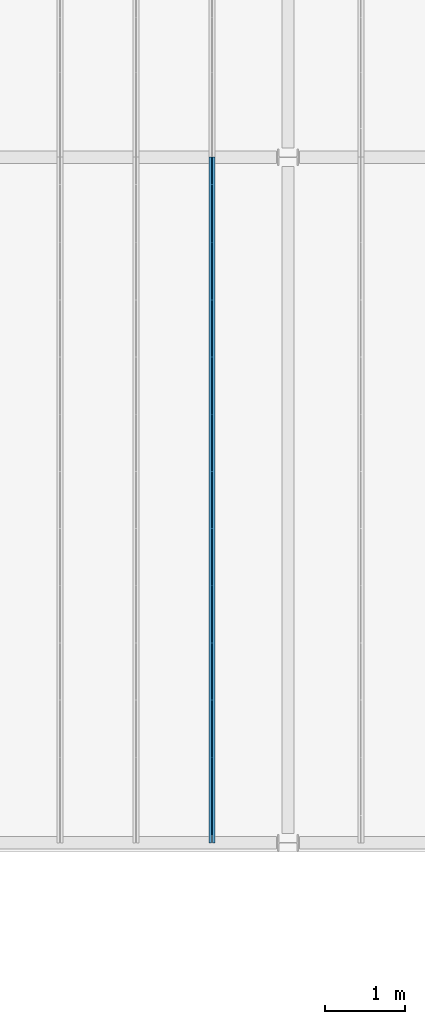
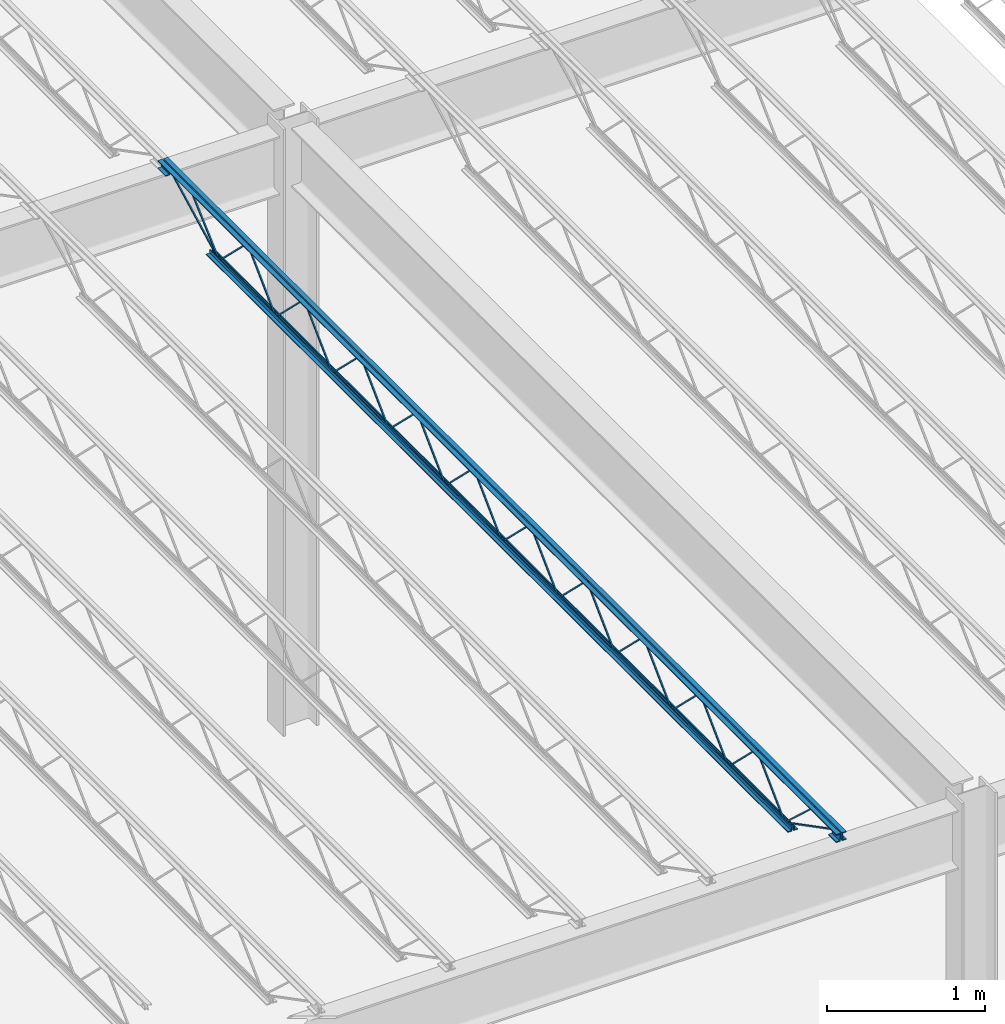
# One storey, part 63 of 119: 1 beam.
"""IFC2X3 building model written with IfcOpenShell, lengths in metres."""

from ifc_helpers import new_model, entity, si_unit, converted_unit, frame, origin, place, context, project, spatial, face_set, surface_model, element, save


model = new_model("IFC2X3")

# Units and contexts
model_context = context("Model", 3, precision=1e-09, world=origin())
plan_context = context("Plan", 3, precision=1e-09, world=origin())
ifc_project = project(units=[si_unit("LENGTHUNIT", "METRE"), si_unit("AREAUNIT", "SQUARE_METRE"), si_unit("VOLUMEUNIT", "CUBIC_METRE"), converted_unit("PLANEANGLEUNIT", "DEGREE", entity("IfcRatioMeasure", 0.01745329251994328), si_unit("PLANEANGLEUNIT", "RADIAN"), dimensions=[0, 0, 0, 0, 0, 0, 0]), si_unit("TIMEUNIT", "SECOND")], contexts=[model_context, plan_context])

# Site, building, storey
site_placement = place(None, origin())
site = spatial("IfcSite", under=ifc_project, at=site_placement, Name="Default", CompositionType="ELEMENT")
building_placement = place(site_placement, origin())
building = spatial("IfcBuilding", under=site, at=building_placement, CompositionType="ELEMENT")
storey_placement = place(building_placement, frame((0.0, 0.0, 4.570000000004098)))
storey = spatial("IfcBuildingStorey", under=building, at=storey_placement, Name="Second Floor", CompositionType="ELEMENT", Elevation=4.570000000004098)

# Beam
beam_placement = place(storey_placement, frame((-8.266746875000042, 10.03999999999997, 4.323999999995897), z_axis=(0.0, 0.0, 1.0), x_axis=(-1.0, 0.0, 0.0)))
element("IfcBeam", 1, at=beam_placement, inside=storey, Name="M_K-Series Bar Joist-Rod Web:14K1:14K1", ObjectType="M_K-Series Bar Joist-Rod Web:14K1", context=model_context, shape_type="SurfaceModel", body=[
    surface_model("IfcFaceBasedSurfaceModel", [(-0.03200000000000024, -2.141200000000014, 0.01110000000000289), (-0.04150000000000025, -2.141200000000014, 0.01110000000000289), (-0.04150000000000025, -2.141200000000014, 0.001600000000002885), (-0.03200000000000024, -2.141200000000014, 0.001600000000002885), (-0.04150000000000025, -2.13996192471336, 0.01110000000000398), (-0.03200000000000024, -2.13996192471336, 0.01110000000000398), (-0.04150000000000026, -2.136088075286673, 0.001600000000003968), (-0.04149999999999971, -1.78513807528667, 0.3449000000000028), (-0.04149999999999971, -1.782661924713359, 0.3449000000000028), (-0.04150000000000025, -1.431711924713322, 0.001600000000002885), (-0.04150000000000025, -1.426600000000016, 0.001600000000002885), (-0.04150000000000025, -1.426600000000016, 0.01110000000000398), (-0.04150000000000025, -1.42783807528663, 0.01110000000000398), (-0.04149999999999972, -1.778788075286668, 0.3544000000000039), (-0.04150000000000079, -1.789011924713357, 0.3544000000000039), (-0.03200000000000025, -2.136088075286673, 0.001600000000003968), (-0.03200000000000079, -1.78513807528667, 0.3449000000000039), (-0.03200000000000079, -1.782661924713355, 0.3449000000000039), (-0.03200000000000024, -1.431711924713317, 0.001600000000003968), (-0.03200000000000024, -1.426600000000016, 0.001600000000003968), (-0.03200000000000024, -1.426600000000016, 0.01110000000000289), (-0.03200000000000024, -1.427838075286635, 0.01110000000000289), (-0.03199999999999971, -1.778788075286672, 0.3544000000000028), (-0.03200000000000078, -1.789011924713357, 0.3544000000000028), (-0.03200000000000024, -2.855800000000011, 0.01110000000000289), (-0.04150000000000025, -2.855800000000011, 0.01110000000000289), (-0.04150000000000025, -2.855800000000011, 0.001600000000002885), (-0.03200000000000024, -2.855800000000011, 0.001600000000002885), (-0.04150000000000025, -2.854561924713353, 0.01110000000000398), (-0.03200000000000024, -2.854561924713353, 0.01110000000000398), (-0.04150000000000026, -2.850688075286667, 0.001600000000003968), (-0.04150000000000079, -2.499738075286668, 0.3449000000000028), (-0.04149999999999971, -2.497261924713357, 0.3449000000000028), (-0.04150000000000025, -2.14631192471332, 0.001600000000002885), (-0.04150000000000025, -2.141200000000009, 0.001600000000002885), (-0.04150000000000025, -2.141200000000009, 0.01110000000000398), (-0.04150000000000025, -2.142438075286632, 0.01110000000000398), (-0.04149999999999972, -2.49338807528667, 0.3544000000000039), (-0.04150000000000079, -2.503611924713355, 0.3544000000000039), (-0.03200000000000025, -2.850688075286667, 0.001600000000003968), (-0.03200000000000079, -2.499738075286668, 0.3449000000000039), (-0.03200000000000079, -2.497261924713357, 0.3449000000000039), (-0.03200000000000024, -2.14631192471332, 0.001600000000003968), (-0.03200000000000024, -2.141200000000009, 0.001600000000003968), (-0.03200000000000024, -2.141200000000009, 0.01110000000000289), (-0.03200000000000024, -2.142438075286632, 0.01110000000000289), (-0.03199999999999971, -2.49338807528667, 0.3544000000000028), (-0.03200000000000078, -2.503611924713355, 0.3544000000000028), (-0.03200000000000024, -3.570400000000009, 0.01110000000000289), (-0.04150000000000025, -3.570400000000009, 0.01110000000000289), (-0.04150000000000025, -3.570400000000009, 0.001600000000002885), (-0.03200000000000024, -3.570400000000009, 0.001600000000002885), (-0.04150000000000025, -3.569161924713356, 0.01110000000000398), (-0.03200000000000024, -3.569161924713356, 0.01110000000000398), (-0.04150000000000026, -3.565288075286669, 0.001600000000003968), (-0.04150000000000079, -3.214338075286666, 0.3449000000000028), (-0.04149999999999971, -3.21186192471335, 0.3449000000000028), (-0.04150000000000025, -2.860911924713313, 0.001600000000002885), (-0.04150000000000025, -2.855800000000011, 0.01110000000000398), (-0.04150000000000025, -2.857038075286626, 0.01110000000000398), (-0.04149999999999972, -3.207988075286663, 0.3544000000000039), (-0.04150000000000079, -3.218211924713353, 0.3544000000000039), (-0.03200000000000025, -3.565288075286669, 0.001600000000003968), (-0.03200000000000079, -3.214338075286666, 0.3449000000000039), (-0.03200000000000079, -3.21186192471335, 0.3449000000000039), (-0.03200000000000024, -2.860911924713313, 0.001600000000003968), (-0.03200000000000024, -2.855800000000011, 0.001600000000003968), (-0.03200000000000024, -2.857038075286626, 0.01110000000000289), (-0.03199999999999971, -3.207988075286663, 0.3544000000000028), (-0.03200000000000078, -3.218211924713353, 0.3544000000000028), (-0.03200000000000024, -4.285000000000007, 0.01110000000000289), (-0.04150000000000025, -4.285000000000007, 0.01110000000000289), (-0.04150000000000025, -4.285000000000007, 0.001600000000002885), (-0.03200000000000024, -4.285000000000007, 0.001600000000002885), (-0.04150000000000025, -4.283761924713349, 0.01110000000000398), (-0.03200000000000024, -4.283761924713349, 0.01110000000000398), (-0.04150000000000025, -4.279888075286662, 0.001600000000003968), (-0.04150000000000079, -3.92893807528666, 0.3449000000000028), (-0.04149999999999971, -3.926461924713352, 0.3449000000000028), (-0.04150000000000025, -3.575511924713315, 0.001600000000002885), (-0.04150000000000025, -3.570400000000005, 0.001600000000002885), (-0.04150000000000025, -3.570400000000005, 0.01110000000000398), (-0.04150000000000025, -3.571638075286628, 0.01110000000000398), (-0.04149999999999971, -3.922588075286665, 0.3544000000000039), (-0.04150000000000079, -3.932811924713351, 0.3544000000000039), (-0.03200000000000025, -4.279888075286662, 0.001600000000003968), (-0.03200000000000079, -3.928938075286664, 0.3449000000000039), (-0.03200000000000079, -3.926461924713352, 0.3449000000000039), (-0.03200000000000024, -3.575511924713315, 0.001600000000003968), (-0.03200000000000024, -3.570400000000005, 0.001600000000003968), (-0.03200000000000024, -3.570400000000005, 0.01110000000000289), (-0.03200000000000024, -3.571638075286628, 0.01110000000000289), (-0.03199999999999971, -3.922588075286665, 0.3544000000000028), (-0.03200000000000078, -3.932811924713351, 0.3544000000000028), (-0.03200000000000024, -4.999600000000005, 0.01110000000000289), (-0.04150000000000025, -4.999600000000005, 0.01110000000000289), (-0.04150000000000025, -4.999600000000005, 0.001600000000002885), (-0.03200000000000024, -4.999600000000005, 0.001600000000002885), (-0.04150000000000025, -4.998361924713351, 0.01110000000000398), (-0.03200000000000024, -4.998361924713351, 0.01110000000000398), (-0.04150000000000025, -4.99448807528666, 0.001600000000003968), (-0.04150000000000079, -4.643538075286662, 0.3449000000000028), (-0.04149999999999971, -4.641061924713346, 0.3449000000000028), (-0.04150000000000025, -4.290111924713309, 0.001600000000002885), (-0.04150000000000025, -4.285000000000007, 0.01110000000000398), (-0.04150000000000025, -4.286238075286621, 0.01110000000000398), (-0.04149999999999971, -4.637188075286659, 0.3544000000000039), (-0.04150000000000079, -4.647411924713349, 0.3544000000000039), (-0.03200000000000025, -4.994488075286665, 0.001600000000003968), (-0.03200000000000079, -4.643538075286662, 0.3449000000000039), (-0.03200000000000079, -4.641061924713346, 0.3449000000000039), (-0.03200000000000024, -4.290111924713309, 0.001600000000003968), (-0.03200000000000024, -4.285000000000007, 0.001600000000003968), (-0.03200000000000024, -4.286238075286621, 0.01110000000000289), (-0.03199999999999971, -4.637188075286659, 0.3544000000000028), (-0.03200000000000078, -4.647411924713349, 0.3544000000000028), (-0.03200000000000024, -5.714200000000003, 0.01110000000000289), (-0.04150000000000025, -5.714200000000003, 0.01110000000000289), (-0.04150000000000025, -5.714200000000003, 0.001600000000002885), (-0.03200000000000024, -5.714200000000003, 0.001600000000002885), (-0.04150000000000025, -5.712961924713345, 0.01110000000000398), (-0.03200000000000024, -5.712961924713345, 0.01110000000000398), (-0.04150000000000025, -5.709088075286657, 0.001600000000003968), (-0.04150000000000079, -5.358138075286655, 0.3449000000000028), (-0.04149999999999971, -5.355661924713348, 0.3449000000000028), (-0.04150000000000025, -5.004711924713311, 0.001600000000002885), (-0.04150000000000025, -4.9996, 0.001600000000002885), (-0.04150000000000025, -4.9996, 0.01110000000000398), (-0.04150000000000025, -5.000838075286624, 0.01110000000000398), (-0.04149999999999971, -5.351788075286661, 0.3544000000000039), (-0.04150000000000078, -5.362011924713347, 0.3544000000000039), (-0.03200000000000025, -5.709088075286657, 0.001600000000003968), (-0.03200000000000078, -5.35813807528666, 0.3449000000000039), (-0.03200000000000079, -5.355661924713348, 0.3449000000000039), (-0.03200000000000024, -5.004711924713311, 0.001600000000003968), (-0.03200000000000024, -4.9996, 0.001600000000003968), (-0.03200000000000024, -4.9996, 0.01110000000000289), (-0.03200000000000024, -5.000838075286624, 0.01110000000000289), (-0.03199999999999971, -5.351788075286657, 0.3544000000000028), (-0.03200000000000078, -5.362011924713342, 0.3544000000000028), (-0.03200000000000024, -6.428799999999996, 0.01110000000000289), (-0.04150000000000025, -6.428799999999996, 0.01110000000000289), (-0.04150000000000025, -6.428799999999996, 0.001600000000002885), (-0.03200000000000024, -6.428799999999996, 0.001600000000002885), (-0.04150000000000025, -6.427561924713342, 0.01110000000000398), (-0.03200000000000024, -6.427561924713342, 0.01110000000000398), (-0.04150000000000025, -6.423688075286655, 0.001600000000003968), (-0.04150000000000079, -6.072738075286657, 0.3449000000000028), (-0.04149999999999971, -6.070261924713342, 0.3449000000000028), (-0.04150000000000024, -5.719311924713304, 0.001600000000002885), (-0.04150000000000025, -5.714199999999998, 0.001600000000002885), (-0.04150000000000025, -5.714199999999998, 0.01110000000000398), (-0.04150000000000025, -5.715438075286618, 0.01110000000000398), (-0.04149999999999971, -6.066388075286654, 0.3544000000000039), (-0.04150000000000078, -6.076611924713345, 0.3544000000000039), (-0.03200000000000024, -6.423688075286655, 0.001600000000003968), (-0.03200000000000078, -6.072738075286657, 0.3449000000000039), (-0.03200000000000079, -6.070261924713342, 0.3449000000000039), (-0.03200000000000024, -5.719311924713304, 0.001600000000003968), (-0.03200000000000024, -5.714199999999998, 0.001600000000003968), (-0.03200000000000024, -5.714199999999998, 0.01110000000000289), (-0.03200000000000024, -5.715438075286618, 0.01110000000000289), (-0.03199999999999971, -6.066388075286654, 0.3544000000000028), (-0.03200000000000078, -6.076611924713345, 0.3544000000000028), (-0.03200000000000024, -7.143399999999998, 0.01110000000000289), (-0.04150000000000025, -7.143399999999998, 0.01110000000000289), (-0.04150000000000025, -7.143399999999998, 0.001600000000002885), (-0.03200000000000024, -7.143399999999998, 0.001600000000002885), (-0.04150000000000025, -7.14216192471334, 0.01110000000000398), (-0.03200000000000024, -7.14216192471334, 0.01110000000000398), (-0.04150000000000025, -7.138288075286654, 0.001600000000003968), (-0.04150000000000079, -6.787338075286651, 0.3449000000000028), (-0.04150000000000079, -6.784861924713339, 0.3449000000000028), (-0.04150000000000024, -6.433911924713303, 0.001600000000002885), (-0.04150000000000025, -6.428799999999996, 0.01110000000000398), (-0.04150000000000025, -6.430038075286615, 0.01110000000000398), (-0.04149999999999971, -6.780988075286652, 0.3544000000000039), (-0.04150000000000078, -6.791211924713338, 0.3544000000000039), (-0.03200000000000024, -7.138288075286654, 0.001600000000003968), (-0.03200000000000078, -6.787338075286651, 0.3449000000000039), (-0.03200000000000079, -6.784861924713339, 0.3449000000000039), (-0.03200000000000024, -6.433911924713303, 0.001600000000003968), (-0.03200000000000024, -6.428799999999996, 0.001600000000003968), (-0.03200000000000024, -6.430038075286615, 0.01110000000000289), (-0.0319999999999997, -6.780988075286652, 0.3544000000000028), (-0.03200000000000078, -6.791211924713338, 0.3544000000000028), (-0.03199999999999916, -1.426600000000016, 0.01109999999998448), (-0.04149999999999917, -1.426600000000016, 0.01109999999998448), (-0.04149999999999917, -1.426600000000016, 0.001599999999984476), (-0.03199999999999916, -1.426600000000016, 0.001599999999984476), (-0.04149999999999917, -1.425361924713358, 0.01109999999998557), (-0.03199999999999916, -1.425361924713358, 0.01109999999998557), (-0.04149999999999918, -1.421488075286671, 0.001599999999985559), (-0.04149999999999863, -1.070538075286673, 0.3448999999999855), (-0.04149999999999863, -1.068061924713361, 0.3448999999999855), (-0.04149999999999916, -0.7171119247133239, 0.001599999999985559), (-0.04149999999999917, -0.712000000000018, 0.001599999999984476), (-0.04149999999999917, -0.7120000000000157, 0.01109999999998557), (-0.04149999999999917, -0.7132380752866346, 0.01109999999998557), (-0.04149999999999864, -1.064188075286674, 0.3543999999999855), (-0.0414999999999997, -1.07441192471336, 0.3543999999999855), (-0.03199999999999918, -1.421488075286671, 0.001599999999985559), (-0.0319999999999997, -1.070538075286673, 0.3448999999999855), (-0.0319999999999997, -1.068061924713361, 0.3448999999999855), (-0.03199999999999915, -0.7171119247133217, 0.001599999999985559), (-0.03199999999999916, -0.7120000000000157, 0.001599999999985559), (-0.03199999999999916, -0.712000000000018, 0.01109999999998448), (-0.03199999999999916, -0.7132380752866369, 0.01109999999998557), (-0.03199999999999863, -1.064188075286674, 0.3543999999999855), (-0.0319999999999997, -1.07441192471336, 0.3543999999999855), (-0.03200000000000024, -7.857999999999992, 0.01110000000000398), (-0.04150000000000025, -7.857999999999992, 0.01110000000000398), (-0.04150000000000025, -7.857999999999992, 0.001600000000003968), (-0.03200000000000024, -7.857999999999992, 0.001600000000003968), (-0.04150000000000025, -7.856761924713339, 0.01110000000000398), (-0.03200000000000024, -7.856761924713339, 0.01110000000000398), (-0.04150000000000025, -7.852888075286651, 0.001600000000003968), (-0.04150000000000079, -7.501938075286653, 0.3449000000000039), (-0.04150000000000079, -7.499461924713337, 0.3449000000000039), (-0.04150000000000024, -7.1485119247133, 0.001600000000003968), (-0.04150000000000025, -7.143399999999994, 0.001600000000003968), (-0.04150000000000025, -7.143399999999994, 0.01110000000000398), (-0.04150000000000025, -7.144638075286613, 0.01110000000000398), (-0.04149999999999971, -7.49558807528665, 0.3544000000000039), (-0.04150000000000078, -7.50581192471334, 0.3544000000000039), (-0.03200000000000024, -7.852888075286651, 0.001600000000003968), (-0.03200000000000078, -7.501938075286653, 0.3449000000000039), (-0.03200000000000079, -7.499461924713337, 0.3449000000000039), (-0.03200000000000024, -7.1485119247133, 0.001600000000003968), (-0.03200000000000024, -7.143399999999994, 0.001600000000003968), (-0.03200000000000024, -7.143399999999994, 0.01110000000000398), (-0.03200000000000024, -7.144638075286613, 0.01110000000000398), (-0.0319999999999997, -7.49558807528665, 0.3544000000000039), (-0.03200000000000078, -7.50581192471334, 0.3544000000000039), (-0.04150000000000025, 0.0, 0.3559999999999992), (-0.07350000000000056, 0.0, 0.3559999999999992), (-0.07350000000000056, 0.0, 0.3494999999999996), (-0.04800000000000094, 0.0, 0.3494999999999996), (-0.04800000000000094, 0.0, 0.3239999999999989), (-0.04150000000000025, 0.0, 0.3239999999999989), (-0.03200000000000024, 0.0, 0.3559999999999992), (-0.03200000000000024, 0.0, 0.3239999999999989), (-0.02550000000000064, 0.0, 0.3239999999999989), (-0.02550000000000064, 0.0, 0.3494999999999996), (0.0, 0.0, 0.3494999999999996), (0.0, 0.0, 0.3559999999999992), (-0.04150000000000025, -8.569999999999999, 0.3559999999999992), (-0.07350000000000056, -8.569999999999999, 0.3559999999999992), (-0.07350000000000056, -8.569999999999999, 0.3494999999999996), (-0.04800000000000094, -8.569999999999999, 0.3494999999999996), (-0.04800000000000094, -8.569999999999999, 0.3239999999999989), (-0.04150000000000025, -8.569999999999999, 0.3239999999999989), (-0.03200000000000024, -8.569999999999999, 0.3559999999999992), (-0.03200000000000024, -8.569999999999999, 0.3239999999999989), (-0.02550000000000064, -8.569999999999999, 0.3239999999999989), (-0.02550000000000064, -8.569999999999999, 0.3494999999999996), (0.0, -8.569999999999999, 0.3494999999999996), (0.0, -8.569999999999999, 0.3559999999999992), (-0.0320000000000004, -8.470000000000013, 0.2924999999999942), (0.0, -8.470000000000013, 0.2924999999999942), (0.0, -8.470000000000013, 0.2989999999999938), (-0.02550000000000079, -8.470000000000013, 0.2989999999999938), (-0.02550000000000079, -8.470000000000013, 0.3239999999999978), (-0.0320000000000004, -8.470000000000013, 0.3239999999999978), (-0.07349999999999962, -8.470000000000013, 0.2924999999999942), (-0.0415000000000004, -8.470000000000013, 0.2924999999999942), (-0.0415000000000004, -8.470000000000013, 0.3239999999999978), (-0.048, -8.470000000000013, 0.3239999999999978), (-0.048, -8.470000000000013, 0.2989999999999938), (-0.07349999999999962, -8.470000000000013, 0.2989999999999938), (-0.03200000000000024, -8.569999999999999, 0.2924999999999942), (0.0, -8.569999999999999, 0.2924999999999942), (0.0, -8.569999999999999, 0.2989999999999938), (-0.02550000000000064, -8.569999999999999, 0.2989999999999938), (-0.02550000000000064, -8.569999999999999, 0.3239999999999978), (-0.03200000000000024, -8.569999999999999, 0.3239999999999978), (-0.07349999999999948, -8.569999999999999, 0.2924999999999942), (-0.04150000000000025, -8.569999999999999, 0.2924999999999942), (-0.04150000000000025, -8.569999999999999, 0.3239999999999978), (-0.04799999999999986, -8.569999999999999, 0.3239999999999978), (-0.04799999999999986, -8.569999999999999, 0.2989999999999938), (-0.07349999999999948, -8.569999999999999, 0.2989999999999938), (-0.04150000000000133, 0.0, 0.2924999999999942), (-0.04150000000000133, 0.0, 0.3239999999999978), (-0.04800000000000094, 0.0, 0.3239999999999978), (-0.04800000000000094, 0.0, 0.2989999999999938), (-0.07350000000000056, 0.0, 0.2989999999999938), (-0.07350000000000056, 0.0, 0.2924999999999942), (-0.03200000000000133, 0.0, 0.2924999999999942), (0.0, 0.0, 0.2924999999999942), (0.0, 0.0, 0.2989999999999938), (-0.02550000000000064, 0.0, 0.2989999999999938), (-0.02550000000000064, 0.0, 0.3239999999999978), (-0.03200000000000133, 0.0, 0.3239999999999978), (-0.04150000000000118, -0.09999999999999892, 0.2924999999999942), (-0.04150000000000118, -0.09999999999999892, 0.3239999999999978), (-0.04800000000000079, -0.09999999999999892, 0.3239999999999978), (-0.04800000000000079, -0.09999999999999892, 0.2989999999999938), (-0.07350000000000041, -0.09999999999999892, 0.2989999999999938), (-0.07350000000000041, -0.09999999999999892, 0.2924999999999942), (-0.03200000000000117, -0.09999999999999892, 0.2924999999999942), (0.0, -0.09999999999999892, 0.2924999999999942), (0.0, -0.09999999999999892, 0.2989999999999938), (-0.02550000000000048, -0.09999999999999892, 0.2989999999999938), (-0.02550000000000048, -0.09999999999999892, 0.3239999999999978), (-0.03200000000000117, -0.09999999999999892, 0.3239999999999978), (-0.04150000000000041, -0.6119999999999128, 0.0), (-0.04150000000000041, -0.6119999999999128, 0.03199999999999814), (-0.04800000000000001, -0.6119999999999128, 0.03199999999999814), (-0.04800000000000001, -0.6119999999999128, 0.006499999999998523), (-0.07349999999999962, -0.6119999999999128, 0.006499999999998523), (-0.07349999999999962, -0.6119999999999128, 0.0), (-0.0320000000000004, -0.6119999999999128, 0.0), (0.0, -0.6119999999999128, 0.0), (0.0, -0.6119999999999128, 0.006499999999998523), (-0.02550000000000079, -0.6119999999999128, 0.006499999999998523), (-0.02550000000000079, -0.6119999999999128, 0.03199999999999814), (-0.0320000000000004, -0.6119999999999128, 0.03199999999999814), (-0.04150000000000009, -7.957999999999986, 0.0), (-0.04150000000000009, -7.957999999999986, 0.03199999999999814), (-0.0479999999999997, -7.957999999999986, 0.03199999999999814), (-0.0479999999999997, -7.957999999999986, 0.006499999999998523), (-0.07349999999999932, -7.957999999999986, 0.006499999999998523), (-0.07349999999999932, -7.957999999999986, 0.0), (-0.03200000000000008, -7.957999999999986, 0.0), (0.0, -7.957999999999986, 0.0), (0.0, -7.957999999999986, 0.006499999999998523), (-0.02550000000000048, -7.957999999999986, 0.006499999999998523), (-0.02550000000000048, -7.957999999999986, 0.03199999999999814), (-0.03200000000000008, -7.957999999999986, 0.03199999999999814), (-0.03200000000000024, -7.855811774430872, 0.01056594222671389), (-0.04150000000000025, -7.855811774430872, 0.01056594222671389), (-0.04150000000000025, -7.860188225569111, 0.002134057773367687), (-0.03200000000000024, -7.860188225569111, 0.00213405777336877), (-0.0320000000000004, -8.468840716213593, 0.3287499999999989), (-0.03200000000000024, -8.569999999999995, 0.3287499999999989), (-0.03200000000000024, -8.569999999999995, 0.3192499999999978), (-0.03200000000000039, -8.471159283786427, 0.3192499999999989), (-0.0415000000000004, -8.471159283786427, 0.3192499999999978), (-0.04150000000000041, -8.468840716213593, 0.3287499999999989), (-0.04150000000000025, -8.569999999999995, 0.3287499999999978), (-0.04150000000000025, -8.569999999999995, 0.3192499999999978), (-0.03200000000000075, -8.235257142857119, 0.3417000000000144), (-0.04150000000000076, -8.235257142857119, 0.3417000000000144), (-0.04150000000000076, -8.235257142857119, 0.3322000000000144), (-0.03200000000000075, -8.235257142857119, 0.3322000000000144), (-0.04150000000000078, -8.220724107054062, 0.3417000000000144), (-0.03200000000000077, -8.220724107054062, 0.3417000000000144), (-0.04150000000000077, -8.224390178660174, 0.3322000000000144), (-0.04150000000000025, -7.86119088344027, 0.002831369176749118), (-0.04150000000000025, -7.854809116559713, 0.009868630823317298), (-0.03200000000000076, -8.224390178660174, 0.3322000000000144), (-0.03200000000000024, -7.86119088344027, 0.002831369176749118), (-0.03200000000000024, -7.854809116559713, 0.009868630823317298), (-0.03200000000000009, -0.09781177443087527, 0.3197840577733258), (-0.03200000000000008, -0.1021882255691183, 0.328215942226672), (-0.04150000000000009, -0.1021882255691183, 0.328215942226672), (-0.0415000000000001, -0.09781177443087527, 0.3197840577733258), (-0.03200000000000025, -0.7098117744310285, 0.002134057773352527), (-0.03200000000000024, -0.7141882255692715, 0.01056594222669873), (-0.04150000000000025, -0.7141882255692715, 0.01056594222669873), (-0.04150000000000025, -0.7098117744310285, 0.002134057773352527), (-0.03199999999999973, -0.3369634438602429, 0.3461600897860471), (-0.03199999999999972, -0.3434079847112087, 0.3531399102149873), (-0.04149999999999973, -0.3434079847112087, 0.3531399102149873), (-0.04149999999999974, -0.3369634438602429, 0.3461600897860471), (-0.03200000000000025, -0.7087777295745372, 0.00286008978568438), (-0.03200000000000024, -0.7152222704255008, 0.009839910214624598), (-0.04150000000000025, -0.7152222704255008, 0.009839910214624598), (-0.04150000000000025, -0.7087777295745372, 0.00286008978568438)], [face_set([[[0, 1, 2, 3]], [[1, 4, 5, 0]], [[2, 6, 7, 8, 9, 10, 11, 12, 13, 14, 4, 1]], [[3, 2, 6, 15]], [[0, 3, 15, 16, 17, 18, 19, 20, 21, 22, 23, 5]], [[4, 5, 23, 14]], [[15, 16, 7, 6]], [[14, 13, 22, 23]], [[16, 7, 8, 17]], [[13, 12, 21, 22]], [[17, 8, 9, 18]], [[20, 11, 10, 19]], [[12, 11, 20, 21]], [[18, 9, 10, 19]]]), face_set([[[24, 25, 26, 27]], [[25, 28, 29, 24]], [[26, 30, 31, 32, 33, 34, 35, 36, 37, 38, 28, 25]], [[27, 26, 30, 39]], [[24, 27, 39, 40, 41, 42, 43, 44, 45, 46, 47, 29]], [[28, 29, 47, 38]], [[39, 40, 31, 30]], [[38, 37, 46, 47]], [[40, 31, 32, 41]], [[37, 36, 45, 46]], [[41, 32, 33, 42]], [[44, 35, 34, 43]], [[36, 35, 44, 45]], [[42, 33, 34, 43]]]), face_set([[[48, 49, 50, 51]], [[49, 52, 53, 48]], [[50, 54, 55, 56, 57, 26, 58, 59, 60, 61, 52, 49]], [[51, 50, 54, 62]], [[48, 51, 62, 63, 64, 65, 66, 24, 67, 68, 69, 53]], [[52, 53, 69, 61]], [[62, 63, 55, 54]], [[61, 60, 68, 69]], [[63, 55, 56, 64]], [[60, 59, 67, 68]], [[64, 56, 57, 65]], [[24, 58, 26, 66]], [[59, 58, 24, 67]], [[65, 57, 26, 66]]]), face_set([[[70, 71, 72, 73]], [[71, 74, 75, 70]], [[72, 76, 77, 78, 79, 80, 81, 82, 83, 84, 74, 71]], [[73, 72, 76, 85]], [[70, 73, 85, 86, 87, 88, 89, 90, 91, 92, 93, 75]], [[74, 75, 93, 84]], [[85, 86, 77, 76]], [[84, 83, 92, 93]], [[86, 77, 78, 87]], [[83, 82, 91, 92]], [[87, 78, 79, 88]], [[90, 81, 80, 89]], [[82, 81, 90, 91]], [[88, 79, 80, 89]]]), face_set([[[94, 95, 96, 97]], [[95, 98, 99, 94]], [[96, 100, 101, 102, 103, 72, 104, 105, 106, 107, 98, 95]], [[97, 96, 100, 108]], [[94, 97, 108, 109, 110, 111, 112, 70, 113, 114, 115, 99]], [[98, 99, 115, 107]], [[108, 109, 101, 100]], [[107, 106, 114, 115]], [[109, 101, 102, 110]], [[106, 105, 113, 114]], [[110, 102, 103, 111]], [[70, 104, 72, 112]], [[105, 104, 70, 113]], [[111, 103, 72, 112]]]), face_set([[[116, 117, 118, 119]], [[117, 120, 121, 116]], [[118, 122, 123, 124, 125, 126, 127, 128, 129, 130, 120, 117]], [[119, 118, 122, 131]], [[116, 119, 131, 132, 133, 134, 135, 136, 137, 138, 139, 121]], [[120, 121, 139, 130]], [[131, 132, 123, 122]], [[130, 129, 138, 139]], [[132, 123, 124, 133]], [[129, 128, 137, 138]], [[133, 124, 125, 134]], [[136, 127, 126, 135]], [[128, 127, 136, 137]], [[134, 125, 126, 135]]]), face_set([[[140, 141, 142, 143]], [[141, 144, 145, 140]], [[142, 146, 147, 148, 149, 150, 151, 152, 153, 154, 144, 141]], [[143, 142, 146, 155]], [[140, 143, 155, 156, 157, 158, 159, 160, 161, 162, 163, 145]], [[144, 145, 163, 154]], [[155, 156, 147, 146]], [[154, 153, 162, 163]], [[156, 147, 148, 157]], [[153, 152, 161, 162]], [[157, 148, 149, 158]], [[160, 151, 150, 159]], [[152, 151, 160, 161]], [[158, 149, 150, 159]]]), face_set([[[164, 165, 166, 167]], [[165, 168, 169, 164]], [[166, 170, 171, 172, 173, 142, 174, 175, 176, 177, 168, 165]], [[167, 166, 170, 178]], [[164, 167, 178, 179, 180, 181, 182, 140, 183, 184, 185, 169]], [[168, 169, 185, 177]], [[178, 179, 171, 170]], [[177, 176, 184, 185]], [[179, 171, 172, 180]], [[176, 175, 183, 184]], [[180, 172, 173, 181]], [[140, 174, 142, 182]], [[175, 174, 140, 183]], [[181, 173, 142, 182]]]), face_set([[[186, 187, 188, 189]], [[187, 190, 191, 186]], [[188, 192, 193, 194, 195, 196, 197, 198, 199, 200, 190, 187]], [[189, 188, 192, 201]], [[186, 189, 201, 202, 203, 204, 205, 206, 207, 208, 209, 191]], [[190, 191, 209, 200]], [[201, 202, 193, 192]], [[200, 199, 208, 209]], [[202, 193, 194, 203]], [[199, 198, 207, 208]], [[203, 194, 195, 204]], [[206, 197, 196, 205]], [[198, 197, 206, 207]], [[204, 195, 196, 205]]]), face_set([[[210, 211, 212, 213]], [[211, 214, 215, 210]], [[212, 216, 217, 218, 219, 220, 221, 222, 223, 224, 214, 211]], [[213, 212, 216, 225]], [[210, 213, 225, 226, 227, 228, 229, 230, 231, 232, 233, 215]], [[214, 215, 233, 224]], [[225, 226, 217, 216]], [[224, 223, 232, 233]], [[226, 217, 218, 227]], [[223, 222, 231, 232]], [[227, 218, 219, 228]], [[230, 221, 220, 229]], [[222, 221, 230, 231]], [[228, 219, 220, 229]]]), face_set([[[234, 235, 236, 237, 238, 239]], [[240, 241, 242, 243, 244, 245]], [[246, 247, 248, 249, 250, 251]], [[252, 253, 254, 255, 256, 257]], [[239, 234, 246, 251]], [[238, 239, 251, 250]], [[237, 249, 250, 238]], [[236, 237, 249, 248]], [[235, 247, 248, 236]], [[234, 246, 247, 235]], [[245, 257, 252, 240]], [[244, 245, 257, 256]], [[243, 244, 256, 255]], [[242, 243, 255, 254]], [[241, 242, 254, 253]], [[240, 252, 253, 241]]]), face_set([[[258, 259, 260, 261, 262, 263]], [[264, 265, 266, 267, 268, 269]], [[270, 271, 272, 273, 274, 275]], [[276, 277, 278, 279, 280, 281]], [[263, 275, 270, 258]], [[262, 274, 275, 263]], [[261, 262, 274, 273]], [[260, 272, 273, 261]], [[259, 260, 272, 271]], [[258, 259, 271, 270]], [[269, 281, 276, 264]], [[268, 280, 281, 269]], [[267, 279, 280, 268]], [[266, 278, 279, 267]], [[265, 266, 278, 277]], [[264, 265, 277, 276]]]), face_set([[[282, 283, 284, 285, 286, 287]], [[288, 289, 290, 291, 292, 293]], [[294, 295, 296, 297, 298, 299]], [[300, 301, 302, 303, 304, 305]], [[287, 282, 294, 299]], [[286, 298, 299, 287]], [[285, 297, 298, 286]], [[284, 296, 297, 285]], [[283, 295, 296, 284]], [[282, 283, 295, 294]], [[293, 305, 300, 288]], [[292, 304, 305, 293]], [[291, 292, 304, 303]], [[290, 302, 303, 291]], [[289, 290, 302, 301]], [[288, 289, 301, 300]]]), face_set([[[306, 307, 308, 309, 310, 311]], [[312, 313, 314, 315, 316, 317]], [[318, 319, 320, 321, 322, 323]], [[324, 325, 326, 327, 328, 329]], [[311, 306, 318, 323]], [[310, 322, 323, 311]], [[309, 321, 322, 310]], [[308, 320, 321, 309]], [[307, 319, 320, 308]], [[306, 307, 319, 318]], [[317, 329, 324, 312]], [[316, 328, 329, 317]], [[315, 316, 328, 327]], [[314, 326, 327, 315]], [[313, 314, 326, 325]], [[312, 313, 325, 324]]]), face_set([[[330, 331, 332, 333]], [[333, 330, 334, 335, 336, 337]], [[332, 333, 337, 338]], [[331, 339, 340, 341, 338, 332]], [[330, 334, 339, 331]], [[335, 340, 341, 336]], [[338, 337, 336, 341]], [[334, 335, 340, 339]]]), face_set([[[342, 343, 344, 345]], [[343, 346, 347, 342]], [[344, 348, 349, 350, 346, 343]], [[345, 344, 348, 351]], [[342, 345, 351, 352, 353, 347]], [[353, 350, 349, 352]], [[346, 350, 353, 347]], [[351, 348, 349, 352]]]), face_set([[[354, 355, 356, 357]], [[358, 359, 360, 361]], [[357, 354, 358, 361]], [[356, 360, 361, 357]], [[355, 359, 360, 356]], [[354, 355, 359, 358]]]), face_set([[[362, 363, 364, 365]], [[366, 367, 368, 369]], [[365, 369, 366, 362]], [[364, 368, 369, 365]], [[363, 364, 368, 367]], [[362, 363, 367, 366]]])]),
])

save(model, "model.ifc")
